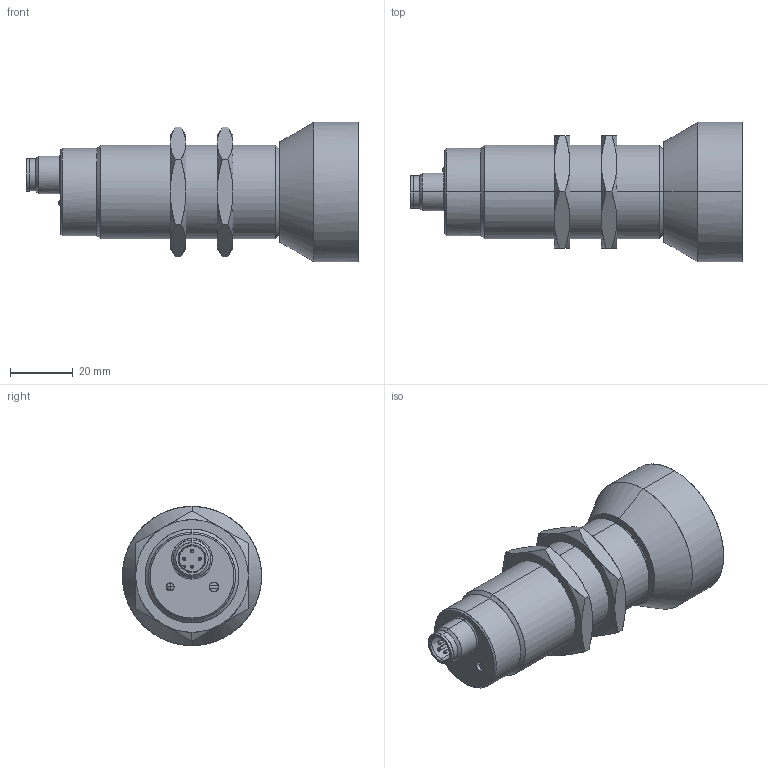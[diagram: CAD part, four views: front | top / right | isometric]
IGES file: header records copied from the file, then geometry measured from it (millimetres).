
Start section: Comment
Global section: file name: UxAM_50_Pot_S14.igs; native system:  By Spatial Corp.; preprocessor: XPlus GENERIC/IGES 3.0; author: Author; organization: Title; date: 20070221.103256; units: millimetre
Bounding box: 106.14 x 44.49 x 44.5 mm (x, y, z)
Surface area: 16979.8 mm2 (no closed solid volume)
Topology: 0 solids, 0 shells, 149 faces, 680 edges, 658 vertices
Faces by surface type: bspline 149
